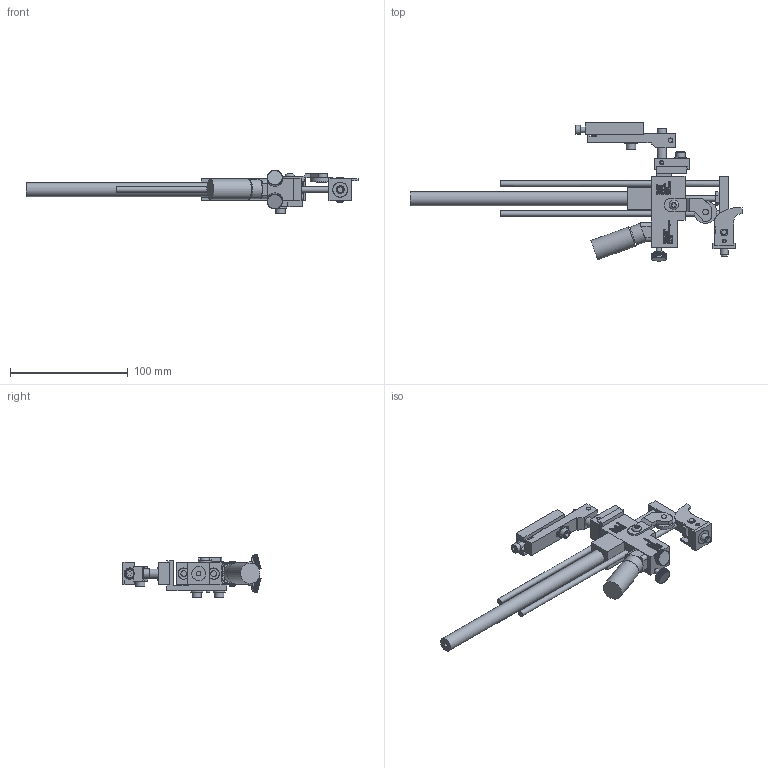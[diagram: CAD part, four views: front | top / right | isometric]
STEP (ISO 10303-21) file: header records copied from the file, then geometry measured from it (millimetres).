
FILE_DESCRIPTION((''),'2;1');
FILE_NAME('C:\Documents and Settings\Ron\My Documents\Inventor\Sprinter Drawing\Machines in Inventor\Model 44\Dot\3-sixteenth\Ext Str\E4\Brkt\90\Model 44 E4 .187 dia dot 90 deg w Brkt.stp','2009-01-26T12:42:53',('Ron'),(''),'Autodesk Inventor 2008','Autodesk Inventor 2008','');
FILE_SCHEMA(('AUTOMOTIVE_DESIGN { 1 0 10303 214 1 1 1 1 }'));
Length unit declared in the file: inch
Products named in the file (1): Model 44 E4 .187 dia dot 90 deg w Brkt
Bounding box: 281.71 x 117.12 x 36.82 mm (x, y, z)
Volume: 118879.3 mm3; surface area: 57588.4 mm2
Topology: 29 solids, 29 shells, 6213 faces, 15415 edges, 9537 vertices
Faces by surface type: plane 4370, bspline 1318, cylinder 473, cone 46, torus 6
Full cylindrical faces by diameter (mm): 3.175 x4, 3.302 x1, 3.962 x1, 4.064 x7, 4.166 x1, 4.699 x1, 4.75 x5, 4.775 x1, 4.826 x7, 5.144 x1, 5.156 x5, 5.207 x2, 5.41 x2, 6.096 x1, 6.274 x2, 6.68 x1, 7.239 x1, 7.62 x1, 7.925 x7, 7.938 x1, 8.128 x1, 9.017 x1, 9.525 x2, 10.312 x4, 10.922 x1, 11.036 x1, 11.938 x2, 12.522 x1, 14.478 x1, 16.256 x1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
Entity records: 197864 total; most frequent: CARTESIAN_POINT 54113, ORIENTED_EDGE 30398, DIRECTION 23653, EDGE_CURVE 15199, VECTOR 11403, LINE 11403, VERTEX_POINT 9476, EDGE_LOOP 6775
